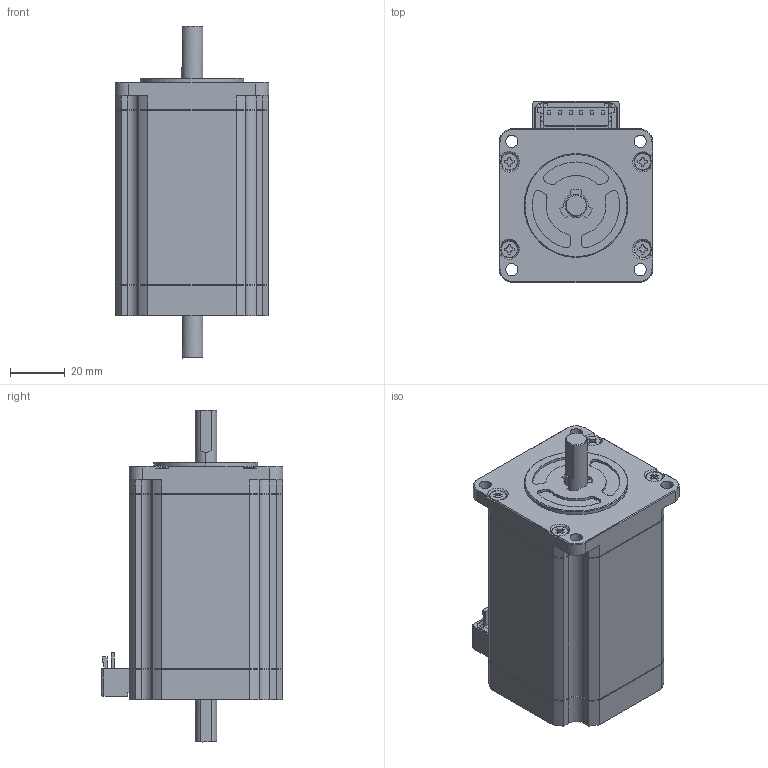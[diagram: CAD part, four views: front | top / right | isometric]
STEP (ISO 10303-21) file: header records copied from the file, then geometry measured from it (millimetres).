
FILE_DESCRIPTION (( 'STEP AP203' ), '1' );
FILE_NAME ('SM2564C10U11.STEP', '2021-05-07T07:37:57', ( '' ), ( '' ), 'SwSTEP 2.0', 'SolidWorks 2019', '' );
FILE_SCHEMA (( 'CONFIG_CONTROL_DESIGN' ));
Length unit declared in the file: millimetre
Products named in the file (11): Copy of REAR COVER^01124254; Copy of TERMINAL^01124254; Copy of STATOR^01124254; Copy of SCREW^01124254; Copy of COUNTER SHAFT^01124254; Copy of FRONT COVER^01124254; Copy of OUTPUT SHAFT^01124254; SM2564C10U11; Copy of INSULATOR_REAR^01124254_コネクタタイプ（10.1L）; Copy of SUBSTRATE^Copy of TERMINAL_01124254; Copy of CONNECTOR^Copy of TERMINAL_01124254
Assembly tree (13 placements, depth 3):
  SM2564C10U11
    Copy of FRONT COVER^01124254
    Copy of STATOR^01124254
    Copy of INSULATOR_REAR^01124254_コネクタタイプ（10.1L）
    Copy of TERMINAL^01124254
      Copy of SUBSTRATE^Copy of TERMINAL_01124254
      Copy of CONNECTOR^Copy of TERMINAL_01124254
    Copy of REAR COVER^01124254
    Copy of COUNTER SHAFT^01124254
    Copy of OUTPUT SHAFT^01124254
    Copy of SCREW^01124254  x4
Bounding box: 56.4 x 66.6 x 121.85 mm (x, y, z)
Volume: 266089.8 mm3; surface area: 47589.2 mm2
Topology: 12 solids, 12 shells, 630 faces, 1636 edges, 1056 vertices
Faces by surface type: plane 405, cylinder 162, cone 63
Entity records: 18401 total; most frequent: CARTESIAN_POINT 3138, ORIENTED_EDGE 2924, DIRECTION 2912, EDGE_CURVE 1462, LINE 1064, VECTOR 1064, VERTEX_POINT 942, AXIS2_PLACEMENT_3D 924
